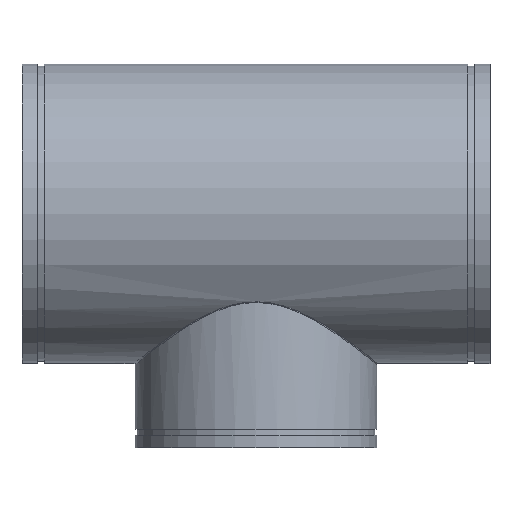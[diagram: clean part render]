
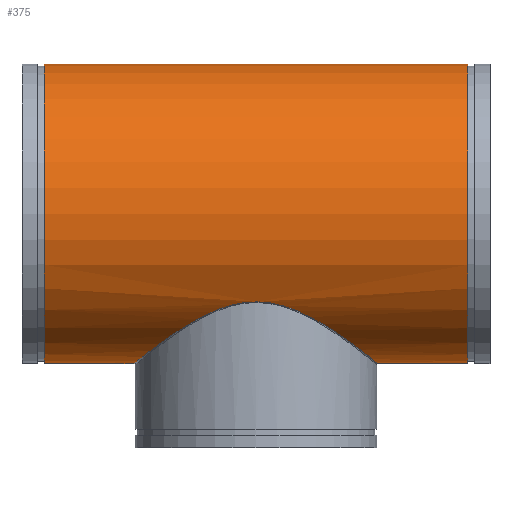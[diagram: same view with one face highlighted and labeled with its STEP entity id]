
A CAD part, top view. The second image highlights one B-rep face of the part: STEP entity #375.
In plain terms, the highlighted cylindrical face has radius 406.4 mm (diameter 812.8 mm), a full revolution.
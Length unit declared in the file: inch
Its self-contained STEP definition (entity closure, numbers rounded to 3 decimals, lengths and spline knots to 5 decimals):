
#54=FACE_BOUND('',#119,.T.);
#65=LINE('',#987,#76);
#76=VECTOR('',#483,16.);
#87=CYLINDRICAL_SURFACE('',#415,16.);
#98=FACE_OUTER_BOUND('',#118,.T.);
#118=EDGE_LOOP('',(#266,#267,#268,#269));
#119=EDGE_LOOP('',(#270));
#150=B_SPLINE_CURVE_WITH_KNOTS('',3,(#931,#932,#933,#934,#935,#936,#937,
#938,#939,#940,#941,#942,#943,#944,#945,#946,#947,#948,#949,#950,#951,#952,
#953,#954,#955,#956,#957,#958,#959,#960,#961,#962,#963,#964,#965,#966,#967,
#968,#969,#970,#971,#972,#973,#974,#975,#976,#977,#978,#979,#980,#981,#982),
 .UNSPECIFIED.,.T.,.F.,(4,1,1,1,1,1,1,1,1,1,1,1,1,1,1,1,1,1,1,1,1,1,1,1,
1,1,1,1,1,1,1,1,1,1,1,1,1,1,1,1,1,1,1,1,1,1,1,1,1,4),(-212.0656,
-211.11888,-208.27871,-204.49183,-200.70494,
-197.86478,-196.91806,-189.34429,-181.77051,
-174.19674,-166.62297,-165.67625,-162.83609,
-159.0492,-155.26231,-154.31559,-151.47543,
-146.42625,-141.37707,-136.32789,-131.2787,
-126.22952,-121.18034,-116.13116,-111.08198,
-108.55739,-106.0328,-103.50821,-100.98362,
-98.45903,-95.93444,-90.88526,-85.83608,
-80.7869,-75.73771,-70.68853,-65.63935,-60.59017,
-55.54099,-50.49181,-45.44263,-40.39345,
-37.02733,-30.29509,-22.72131,-15.14754,
-11.36066,-7.57377,-3.78689,0.),.UNSPECIFIED.);
#154=CIRCLE('',#416,16.);
#155=CIRCLE('',#417,16.);
#182=VERTEX_POINT('',#871);
#185=VERTEX_POINT('',#984);
#186=VERTEX_POINT('',#986);
#219=EDGE_CURVE('',#182,#182,#150,.T.);
#220=EDGE_CURVE('',#185,#185,#154,.T.);
#221=EDGE_CURVE('',#185,#186,#65,.T.);
#222=EDGE_CURVE('',#186,#186,#155,.T.);
#266=ORIENTED_EDGE('',*,*,#220,.T.);
#267=ORIENTED_EDGE('',*,*,#221,.T.);
#268=ORIENTED_EDGE('',*,*,#222,.T.);
#269=ORIENTED_EDGE('',*,*,#221,.F.);
#270=ORIENTED_EDGE('',*,*,#219,.F.);
#375=ADVANCED_FACE('',(#98,#54),#87,.T.);
#415=AXIS2_PLACEMENT_3D('',#983,#479,#480);
#416=AXIS2_PLACEMENT_3D('',#985,#481,#482);
#417=AXIS2_PLACEMENT_3D('',#988,#484,#485);
#479=DIRECTION('center_axis',(-1.,0.,0.));
#480=DIRECTION('ref_axis',(0.,-1.,0.));
#481=DIRECTION('center_axis',(1.,0.,0.));
#482=DIRECTION('ref_axis',(0.,-1.,0.));
#483=DIRECTION('',(1.,0.,0.));
#484=DIRECTION('center_axis',(-1.,0.,0.));
#485=DIRECTION('ref_axis',(0.,-1.,0.));
#871=CARTESIAN_POINT('',(0.,-9.43236,-12.92403));
#931=CARTESIAN_POINT('Ctrl Pts',(0.,-9.43236,
-12.92403));
#932=CARTESIAN_POINT('Ctrl Pts',(0.1293,-9.43236,-12.92403));
#933=CARTESIAN_POINT('Ctrl Pts',(0.64651,-9.44276,-12.91642));
#934=CARTESIAN_POINT('Ctrl Pts',(1.67562,-9.5475,-12.83998));
#935=CARTESIAN_POINT('Ctrl Pts',(3.04332,-9.87224,-12.5953));
#936=CARTESIAN_POINT('Ctrl Pts',(4.32932,-10.34655,-12.2106));
#937=CARTESIAN_POINT('Ctrl Pts',(5.20984,-10.75077,-11.85272));
#938=CARTESIAN_POINT('Ctrl Pts',(6.48427,-11.39231,-11.25246));
#939=CARTESIAN_POINT('Ctrl Pts',(8.14628,-12.38735,-10.20748));
#940=CARTESIAN_POINT('Ctrl Pts',(10.13781,-13.77235,-8.27319));
#941=CARTESIAN_POINT('Ctrl Pts',(11.72074,-14.96675,-5.88363));
#942=CARTESIAN_POINT('Ctrl Pts',(12.46677,-15.55543,-3.89682));
#943=CARTESIAN_POINT('Ctrl Pts',(12.80337,-15.82277,-2.41696));
#944=CARTESIAN_POINT('Ctrl Pts',(12.97087,-15.95658,-1.41156));
#945=CARTESIAN_POINT('Ctrl Pts',(13.05594,-16.02482,-0.00014));
#946=CARTESIAN_POINT('Ctrl Pts',(12.98636,-15.969,1.15448));
#947=CARTESIAN_POINT('Ctrl Pts',(12.84909,-15.85929,2.16605));
#948=CARTESIAN_POINT('Ctrl Pts',(12.61993,-15.67668,3.32944));
#949=CARTESIAN_POINT('Ctrl Pts',(12.08452,-15.25382,4.9544));
#950=CARTESIAN_POINT('Ctrl Pts',(11.20038,-14.57214,6.68868));
#951=CARTESIAN_POINT('Ctrl Pts',(10.10057,-13.75493,8.23065));
#952=CARTESIAN_POINT('Ctrl Pts',(8.81722,-12.85259,9.57119));
#953=CARTESIAN_POINT('Ctrl Pts',(7.37094,-11.91597,10.70773));
#954=CARTESIAN_POINT('Ctrl Pts',(5.76708,-11.00218,11.63764));
#955=CARTESIAN_POINT('Ctrl Pts',(4.00173,-10.18758,12.34917));
#956=CARTESIAN_POINT('Ctrl Pts',(2.38986,-9.68728,12.73584));
#957=CARTESIAN_POINT('Ctrl Pts',(1.03431,-9.46995,12.89674));
#958=CARTESIAN_POINT('Ctrl Pts',(0.00022,-9.41354,
12.93768));
#959=CARTESIAN_POINT('Ctrl Pts',(-1.03435,-9.46989,12.89676));
#960=CARTESIAN_POINT('Ctrl Pts',(-2.0504,-9.633,12.77608));
#961=CARTESIAN_POINT('Ctrl Pts',(-3.03477,-9.88724,12.58124));
#962=CARTESIAN_POINT('Ctrl Pts',(-4.29557,-10.32335,12.23062));
#963=CARTESIAN_POINT('Ctrl Pts',(-5.76702,-11.00205,11.63773));
#964=CARTESIAN_POINT('Ctrl Pts',(-7.37039,-11.91568,10.70807));
#965=CARTESIAN_POINT('Ctrl Pts',(-8.81731,-12.85261,9.57118));
#966=CARTESIAN_POINT('Ctrl Pts',(-10.10029,-13.75476,8.23091));
#967=CARTESIAN_POINT('Ctrl Pts',(-11.20028,-14.57204,6.68893));
#968=CARTESIAN_POINT('Ctrl Pts',(-12.08441,-15.25375,4.95458));
#969=CARTESIAN_POINT('Ctrl Pts',(-12.71125,-15.7488,3.05252));
#970=CARTESIAN_POINT('Ctrl Pts',(-13.03857,-16.01086,1.03208));
#971=CARTESIAN_POINT('Ctrl Pts',(-13.03862,-16.01088,-1.03163));
#972=CARTESIAN_POINT('Ctrl Pts',(-12.71134,-15.74892,-3.05212));
#973=CARTESIAN_POINT('Ctrl Pts',(-12.15423,-15.30881,-4.74283));
#974=CARTESIAN_POINT('Ctrl Pts',(-11.31273,-14.65824,-6.50578));
#975=CARTESIAN_POINT('Ctrl Pts',(-10.06443,-13.72119,-8.3447));
#976=CARTESIAN_POINT('Ctrl Pts',(-8.14602,-12.38743,-10.20744));
#977=CARTESIAN_POINT('Ctrl Pts',(-6.19159,-11.21663,-11.43678));
#978=CARTESIAN_POINT('Ctrl Pts',(-4.44628,-10.38903,-12.17593));
#979=CARTESIAN_POINT('Ctrl Pts',(-3.04324,-9.87266,-12.59512));
#980=CARTESIAN_POINT('Ctrl Pts',(-1.55135,-9.51758,-12.86238));
#981=CARTESIAN_POINT('Ctrl Pts',(-0.51721,-9.43236,-12.92403));
#982=CARTESIAN_POINT('Ctrl Pts',(0.,-9.43236,
-12.92403));
#983=CARTESIAN_POINT('Origin',(25.,0.,0.));
#984=CARTESIAN_POINT('',(-22.625,16.,0.));
#985=CARTESIAN_POINT('Origin',(-22.625,0.,0.));
#986=CARTESIAN_POINT('',(22.625,16.,0.));
#987=CARTESIAN_POINT('',(25.,16.,0.));
#988=CARTESIAN_POINT('Origin',(22.625,0.,0.));
